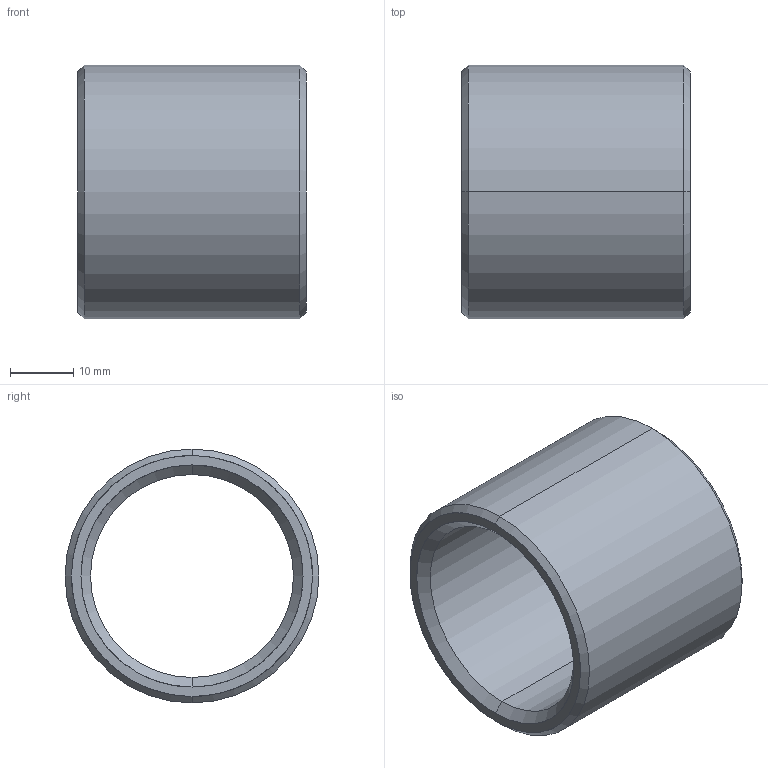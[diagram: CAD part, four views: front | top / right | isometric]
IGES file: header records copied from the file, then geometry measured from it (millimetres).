
Start section: START RECORD GO HERE.
Global section: file name: 352-32X36.igs; native system: DASSAULT SYSTEMES CATIA V5 R20 - www.3ds.com; preprocessor: CATIA Version 5 Release 20 ; author: Utente; organization: NB04-ASUS; date: 20210414.170311; units: millimetre
Bounding box: 36 x 40 x 40 mm (x, y, z)
Surface area: 8769.8 mm2 (no closed solid volume)
Topology: 0 solids, 0 shells, 14 faces, 88 edges, 88 vertices
Faces by surface type: revolution 12, plane 2
